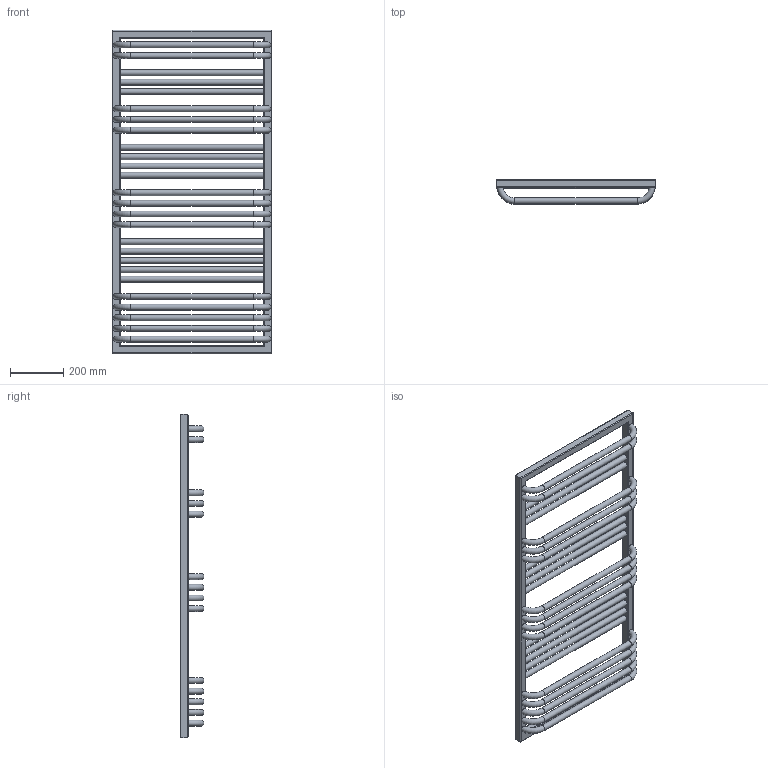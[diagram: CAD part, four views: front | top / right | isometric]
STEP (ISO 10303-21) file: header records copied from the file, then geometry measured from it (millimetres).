
FILE_DESCRIPTION((''),'2;1');
FILE_NAME('Z:\R\G\P\RGPH18 - Grzejnik POC\Work\Inventor\POC 1-6-8 v2.0\Marketing\AutoCad 3D\POC-1215-600-1-6-8.stp','2012-07-12T14:39:24',('KurKa'),(''),'Autodesk Inventor 2012','Autodesk Inventor 2012','');
FILE_SCHEMA(('AUTOMOTIVE_DESIGN { 1 0 10303 214 1 1 1 1 }'));
Length unit declared in the file: millimetre
Products named in the file (1): POC-1215-600-1-6-8
Bounding box: 600 x 90 x 1215 mm (x, y, z)
Volume: 8895972.4 mm3; surface area: 1434127.6 mm2
Topology: 1 solids, 1 shells, 89 faces, 233 edges, 149 vertices
Faces by surface type: cylinder 45, torus 31, plane 13
Full cylindrical faces by diameter (mm): 18.631 x3, 22 x26
Entity records: 4078 total; most frequent: CARTESIAN_POINT 2176, DIRECTION 374, ORIENTED_EDGE 290, EDGE_LOOP 206, AXIS2_PLACEMENT_3D 167, EDGE_CURVE 145, VERTEX_POINT 121, FACE_BOUND 117
